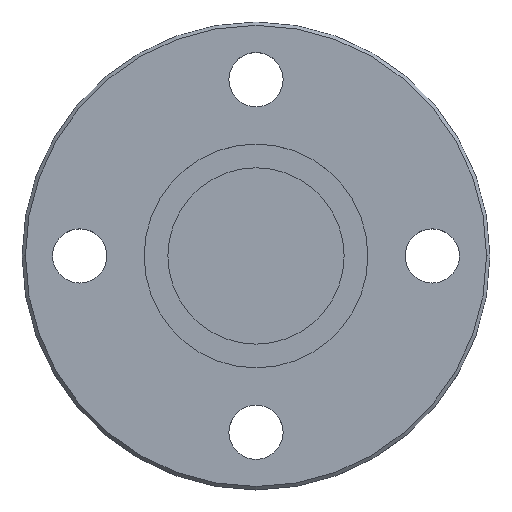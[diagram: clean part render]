
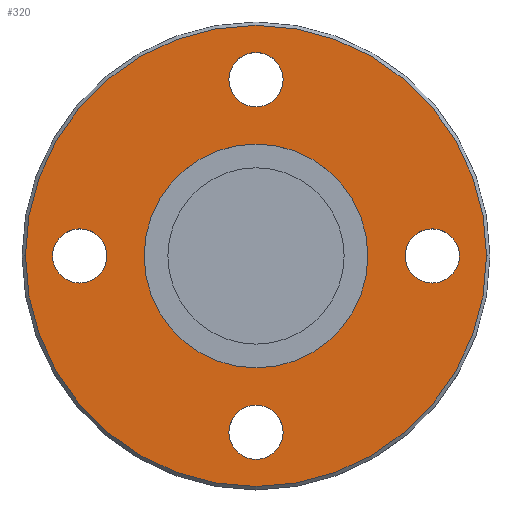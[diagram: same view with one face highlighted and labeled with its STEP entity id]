
A CAD part, top view. The second image highlights one B-rep face of the part: STEP entity #320.
In plain terms, the highlighted planar face has unit normal (0, 0, 1).
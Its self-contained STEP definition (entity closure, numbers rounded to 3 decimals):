
#2 = CARTESIAN_POINT ( 'NONE',  ( 26., 0., 10. ) ) ;
#3 = EDGE_LOOP ( 'NONE', ( #538, #476 ) ) ;
#12 = CARTESIAN_POINT ( 'NONE',  ( 26., -4., 10. ) ) ;
#26 = FACE_BOUND ( 'NONE', #696, .T. ) ;
#30 = CARTESIAN_POINT ( 'NONE',  ( 0., -26., 10. ) ) ;
#43 = DIRECTION ( 'NONE',  ( 1., 0., 0. ) ) ;
#44 = EDGE_CURVE ( 'NONE', #724, #461, #185, .T. ) ;
#58 = CARTESIAN_POINT ( 'NONE',  ( -26., 0., 10. ) ) ;
#59 = VERTEX_POINT ( 'NONE', #198 ) ;
#67 = EDGE_CURVE ( 'NONE', #262, #109, #532, .T. ) ;
#86 = PLANE ( 'NONE',  #714 ) ;
#89 = EDGE_LOOP ( 'NONE', ( #549, #160 ) ) ;
#99 = DIRECTION ( 'NONE',  ( 0., 0., 1. ) ) ;
#109 = VERTEX_POINT ( 'NONE', #615 ) ;
#122 = CIRCLE ( 'NONE', #718, 4. ) ;
#133 = ORIENTED_EDGE ( 'NONE', *, *, #67, .T. ) ;
#140 = CARTESIAN_POINT ( 'NONE',  ( 0., 0., 10. ) ) ;
#149 = AXIS2_PLACEMENT_3D ( 'NONE', #30, #383, #263 ) ;
#153 = DIRECTION ( 'NONE',  ( 0., -1., 0. ) ) ;
#156 = DIRECTION ( 'NONE',  ( 0., 0., 1. ) ) ;
#160 = ORIENTED_EDGE ( 'NONE', *, *, #44, .F. ) ;
#162 = CARTESIAN_POINT ( 'NONE',  ( 16.5, 0., 10. ) ) ;
#163 = EDGE_CURVE ( 'NONE', #400, #441, #686, .T. ) ;
#164 = ORIENTED_EDGE ( 'NONE', *, *, #290, .F. ) ;
#171 = CARTESIAN_POINT ( 'NONE',  ( 0., 0., 10. ) ) ;
#185 = CIRCLE ( 'NONE', #629, 16.5 ) ;
#198 = CARTESIAN_POINT ( 'NONE',  ( -26., -4., 10. ) ) ;
#201 = CIRCLE ( 'NONE', #231, 4. ) ;
#202 = DIRECTION ( 'NONE',  ( 1., 0., 0. ) ) ;
#215 = VERTEX_POINT ( 'NONE', #463 ) ;
#226 = DIRECTION ( 'NONE',  ( 0., 0., 1. ) ) ;
#228 = VERTEX_POINT ( 'NONE', #626 ) ;
#231 = AXIS2_PLACEMENT_3D ( 'NONE', #616, #156, #562 ) ;
#242 = EDGE_CURVE ( 'NONE', #484, #661, #377, .T. ) ;
#244 = DIRECTION ( 'NONE',  ( 0., 0., 1. ) ) ;
#248 = CARTESIAN_POINT ( 'NONE',  ( -26., 4., 10. ) ) ;
#256 = DIRECTION ( 'NONE',  ( -1., 0., 0. ) ) ;
#259 = DIRECTION ( 'NONE',  ( 0., 0., 1. ) ) ;
#262 = VERTEX_POINT ( 'NONE', #543 ) ;
#263 = DIRECTION ( 'NONE',  ( -1., 0., 0. ) ) ;
#272 = AXIS2_PLACEMENT_3D ( 'NONE', #396, #604, #550 ) ;
#273 = DIRECTION ( 'NONE',  ( 0., 0., 1. ) ) ;
#277 = CARTESIAN_POINT ( 'NONE',  ( 4., 26., 10. ) ) ;
#281 = AXIS2_PLACEMENT_3D ( 'NONE', #318, #99, #153 ) ;
#290 = EDGE_CURVE ( 'NONE', #215, #228, #529, .T. ) ;
#297 = EDGE_CURVE ( 'NONE', #228, #215, #415, .T. ) ;
#314 = CARTESIAN_POINT ( 'NONE',  ( 0., 34., 10. ) ) ;
#318 = CARTESIAN_POINT ( 'NONE',  ( 26., 0., 10. ) ) ;
#320 = ADVANCED_FACE ( 'NONE', ( #436, #327, #654, #26, #601, #547 ), #86, .F. ) ;
#327 = FACE_BOUND ( 'NONE', #681, .T. ) ;
#336 = CARTESIAN_POINT ( 'NONE',  ( 0., 26., 10. ) ) ;
#337 = AXIS2_PLACEMENT_3D ( 'NONE', #171, #566, #43 ) ;
#343 = VERTEX_POINT ( 'NONE', #248 ) ;
#347 = EDGE_LOOP ( 'NONE', ( #133, #598 ) ) ;
#356 = ORIENTED_EDGE ( 'NONE', *, *, #163, .F. ) ;
#365 = CIRCLE ( 'NONE', #424, 4. ) ;
#371 = DIRECTION ( 'NONE',  ( 1., 0., 0. ) ) ;
#377 = CIRCLE ( 'NONE', #281, 4. ) ;
#380 = ORIENTED_EDGE ( 'NONE', *, *, #536, .F. ) ;
#383 = DIRECTION ( 'NONE',  ( 0., 0., 1. ) ) ;
#384 = AXIS2_PLACEMENT_3D ( 'NONE', #435, #653, #202 ) ;
#388 = EDGE_CURVE ( 'NONE', #461, #724, #585, .T. ) ;
#389 = CARTESIAN_POINT ( 'NONE',  ( 26., 4., 10. ) ) ;
#396 = CARTESIAN_POINT ( 'NONE',  ( 0., 0., 10. ) ) ;
#399 = DIRECTION ( 'NONE',  ( 0., 0., 1. ) ) ;
#400 = VERTEX_POINT ( 'NONE', #716 ) ;
#413 = EDGE_CURVE ( 'NONE', #661, #484, #122, .T. ) ;
#415 = CIRCLE ( 'NONE', #620, 4. ) ;
#424 = AXIS2_PLACEMENT_3D ( 'NONE', #58, #399, #456 ) ;
#430 = CIRCLE ( 'NONE', #611, 4. ) ;
#435 = CARTESIAN_POINT ( 'NONE',  ( 0., 0., 10. ) ) ;
#436 = FACE_BOUND ( 'NONE', #605, .T. ) ;
#441 = VERTEX_POINT ( 'NONE', #277 ) ;
#456 = DIRECTION ( 'NONE',  ( 0., 1., 0. ) ) ;
#461 = VERTEX_POINT ( 'NONE', #162 ) ;
#463 = CARTESIAN_POINT ( 'NONE',  ( 4., -26., 10. ) ) ;
#466 = EDGE_CURVE ( 'NONE', #109, #262, #624, .T. ) ;
#473 = CARTESIAN_POINT ( 'NONE',  ( -26., 0., 10. ) ) ;
#474 = DIRECTION ( 'NONE',  ( 0., 1., 0. ) ) ;
#476 = ORIENTED_EDGE ( 'NONE', *, *, #242, .F. ) ;
#480 = CARTESIAN_POINT ( 'NONE',  ( 0., -26., 10. ) ) ;
#484 = VERTEX_POINT ( 'NONE', #389 ) ;
#507 = DIRECTION ( 'NONE',  ( 1., 0., 0. ) ) ;
#508 = EDGE_CURVE ( 'NONE', #441, #400, #201, .T. ) ;
#529 = CIRCLE ( 'NONE', #149, 4. ) ;
#532 = CIRCLE ( 'NONE', #384, 34. ) ;
#536 = EDGE_CURVE ( 'NONE', #343, #59, #365, .T. ) ;
#538 = ORIENTED_EDGE ( 'NONE', *, *, #413, .F. ) ;
#543 = CARTESIAN_POINT ( 'NONE',  ( -34., 0., 10. ) ) ;
#547 = FACE_OUTER_BOUND ( 'NONE', #347, .T. ) ;
#548 = ORIENTED_EDGE ( 'NONE', *, *, #508, .F. ) ;
#549 = ORIENTED_EDGE ( 'NONE', *, *, #388, .F. ) ;
#550 = DIRECTION ( 'NONE',  ( 1., 0., 0. ) ) ;
#562 = DIRECTION ( 'NONE',  ( 1., 0., 0. ) ) ;
#566 = DIRECTION ( 'NONE',  ( 0., 0., 1. ) ) ;
#585 = CIRCLE ( 'NONE', #337, 16.5 ) ;
#589 = DIRECTION ( 'NONE',  ( 0., 0., 1. ) ) ;
#598 = ORIENTED_EDGE ( 'NONE', *, *, #466, .T. ) ;
#601 = FACE_BOUND ( 'NONE', #89, .T. ) ;
#604 = DIRECTION ( 'NONE',  ( 0., 0., 1. ) ) ;
#605 = EDGE_LOOP ( 'NONE', ( #380, #709 ) ) ;
#611 = AXIS2_PLACEMENT_3D ( 'NONE', #473, #244, #474 ) ;
#615 = CARTESIAN_POINT ( 'NONE',  ( 34., 0., 10. ) ) ;
#616 = CARTESIAN_POINT ( 'NONE',  ( 0., 26., 10. ) ) ;
#618 = ORIENTED_EDGE ( 'NONE', *, *, #297, .F. ) ;
#620 = AXIS2_PLACEMENT_3D ( 'NONE', #480, #259, #649 ) ;
#621 = DIRECTION ( 'NONE',  ( 0., -1., 0. ) ) ;
#624 = CIRCLE ( 'NONE', #272, 34. ) ;
#625 = AXIS2_PLACEMENT_3D ( 'NONE', #336, #226, #507 ) ;
#626 = CARTESIAN_POINT ( 'NONE',  ( -4., -26., 10. ) ) ;
#629 = AXIS2_PLACEMENT_3D ( 'NONE', #140, #589, #371 ) ;
#649 = DIRECTION ( 'NONE',  ( -1., 0., 0. ) ) ;
#651 = DIRECTION ( 'NONE',  ( 0., 0., -1. ) ) ;
#653 = DIRECTION ( 'NONE',  ( 0., 0., 1. ) ) ;
#654 = FACE_BOUND ( 'NONE', #3, .T. ) ;
#656 = EDGE_CURVE ( 'NONE', #59, #343, #430, .T. ) ;
#661 = VERTEX_POINT ( 'NONE', #12 ) ;
#681 = EDGE_LOOP ( 'NONE', ( #618, #164 ) ) ;
#686 = CIRCLE ( 'NONE', #625, 4. ) ;
#695 = CARTESIAN_POINT ( 'NONE',  ( -16.5, 0., 10. ) ) ;
#696 = EDGE_LOOP ( 'NONE', ( #548, #356 ) ) ;
#709 = ORIENTED_EDGE ( 'NONE', *, *, #656, .F. ) ;
#714 = AXIS2_PLACEMENT_3D ( 'NONE', #314, #651, #256 ) ;
#716 = CARTESIAN_POINT ( 'NONE',  ( -4., 26., 10. ) ) ;
#718 = AXIS2_PLACEMENT_3D ( 'NONE', #2, #273, #621 ) ;
#724 = VERTEX_POINT ( 'NONE', #695 ) ;
